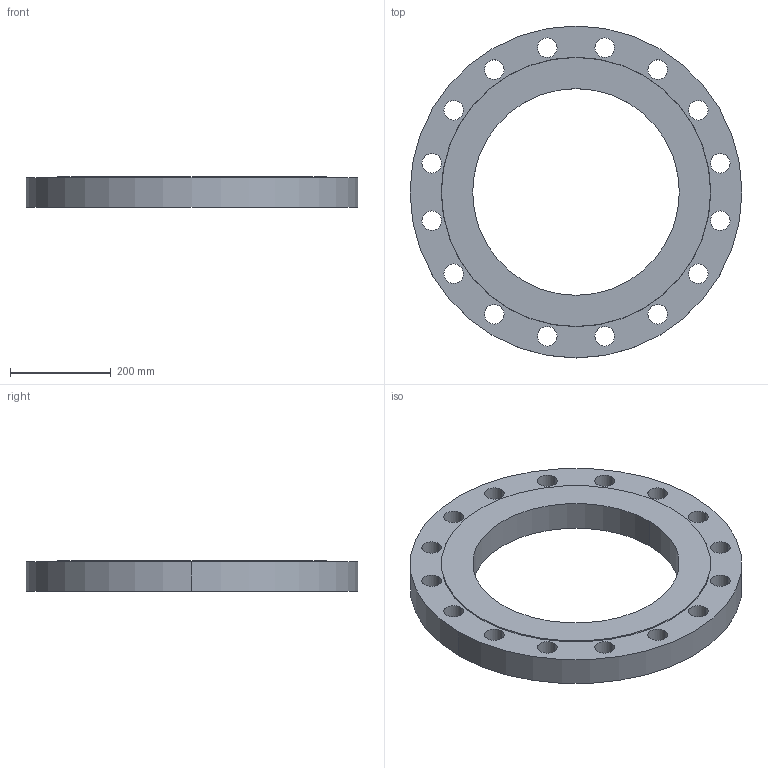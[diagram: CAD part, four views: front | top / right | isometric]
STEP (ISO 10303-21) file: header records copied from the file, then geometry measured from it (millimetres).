
FILE_DESCRIPTION (( 'STEP AP214' ), '1' );
FILE_NAME ('PN40 DN400 Type 01 - Type B Face.STEP', '2019-01-05T23:25:35', ( '' ), ( '' ), 'SwSTEP 2.0', 'SolidWorks 2019', '' );
FILE_SCHEMA (( 'AUTOMOTIVE_DESIGN' ));
Length unit declared in the file: millimetre
Products named in the file (1): PN40 DN400 Type 01 - Type B Face
Bounding box: 660 x 660 x 60 mm (x, y, z)
Volume: 11224327 mm3; surface area: 694926.4 mm2
Topology: 1 solids, 1 shells, 41 faces, 114 edges, 76 vertices
Faces by surface type: cylinder 36, plane 3, cone 2
Entity records: 1466 total; most frequent: DIRECTION 274, CARTESIAN_POINT 232, ORIENTED_EDGE 228, AXIS2_PLACEMENT_3D 118, EDGE_CURVE 114, CIRCLE 76, VERTEX_POINT 76, EDGE_LOOP 76
